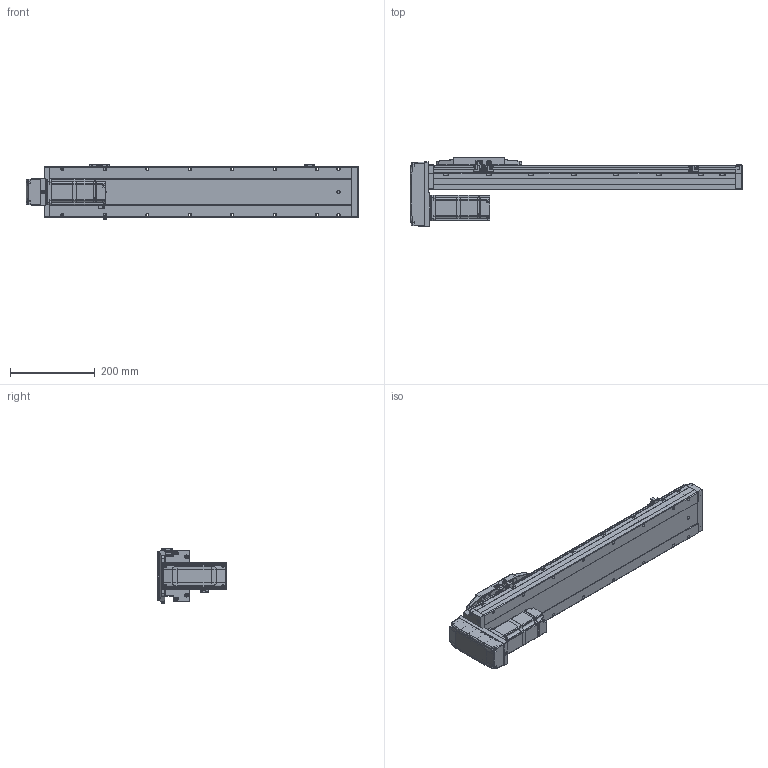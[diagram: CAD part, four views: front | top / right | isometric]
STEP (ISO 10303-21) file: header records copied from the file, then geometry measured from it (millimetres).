
FILE_DESCRIPTION (( 'STEP AP214' ), '1' );
FILE_NAME ('CTH12-L10-S500-BM-C40（简）.STEP', '2023-02-04T06:49:34', ( '' ), ( '' ), 'SwSTEP 2.0', 'SolidWorks 2018', '' );
FILE_SCHEMA (( 'AUTOMOTIVE_DESIGN' ));
Length unit declared in the file: millimetre
Products named in the file (25): 湮賑怢  裔赽-1(CTH12)賑怢; CTH12覜茼え; hex nuts, style 1-grades ab gb_GB_FASTENER_NUT_SNAB1 M3-N; CTH8耜蚾蟀諉啣ㄗ潠ㄘ; AC60_Valor predeterminado; 蚐郲; CTH12賑怢ㄗ潠ㄘ; CTH12-L10-S500-BM-C40（简）; 内六角圆柱头螺钉M3; BM-C40; 嫖萇羲壽郪磁2; CTH12-BL_body_4; 内六角圆柱头螺钉M3-1; CTH12底座-L711简（500行程）; 嫖萇羲壽郪磁1; CTH400W假蚾啣; CTH12; CTH12-BM-02; CTH12賑怢郪磁; CTH嫖萇羲壽假蚾啣; CTH12_body_3; 内六角圆柱头螺钉M5装饰螺钉; 内六角圆柱头螺钉M3-2; CTH400W垫板（3个厚）; PM-Y45
Assembly tree (45 placements, depth 4):
  CTH12-L10-S500-BM-C40（简）
    CTH12底座-L711简（500行程）
    蚐郲  x2
    CTH12_body_3
    CTH12-BL_body_4
    CTH12賑怢郪磁
      CTH12
        湮賑怢  裔赽-1(CTH12)賑怢
        CTH12賑怢ㄗ潠ㄘ
    CTH12覜茼え
    嫖萇羲壽郪磁1  x2
      CTH嫖萇羲壽假蚾啣
      PM-Y45
      内六角圆柱头螺钉M3-2
      内六角圆柱头螺钉M3-1
      hex nuts, style 1-grades ab gb_GB_FASTENER_NUT_SNAB1 M3-N
    嫖萇羲壽郪磁2
      CTH嫖萇羲壽假蚾啣
      PM-Y45
      内六角圆柱头螺钉M3-1  x2
      内六角圆柱头螺钉M3-2  x2
      hex nuts, style 1-grades ab gb_GB_FASTENER_NUT_SNAB1 M3-N  x2
    BM-C40
      CTH12-BM-02
      CTH8耜蚾蟀諉啣ㄗ潠ㄘ
    CTH400W垫板（3个厚）
    AC60_Valor predeterminado
    内六角圆柱头螺钉M3  x6
    内六角圆柱头螺钉M5装饰螺钉  x4
    CTH400W假蚾啣
Bounding box: 781.5 x 162.5 x 131.52 mm (x, y, z)
Volume: 5442822.5 mm3; surface area: 570617.5 mm2
Topology: 47 solids, 48 shells, 2757 faces, 6983 edges, 4445 vertices
Faces by surface type: plane 1486, cylinder 820, cone 291, bspline 108, torus 52
Entity records: 75513 total; most frequent: CARTESIAN_POINT 17717, ORIENTED_EDGE 11146, DIRECTION 11074, EDGE_CURVE 5573, AXIS2_PLACEMENT_3D 3763, VERTEX_POINT 3549, VECTOR 3548, LINE 3548
